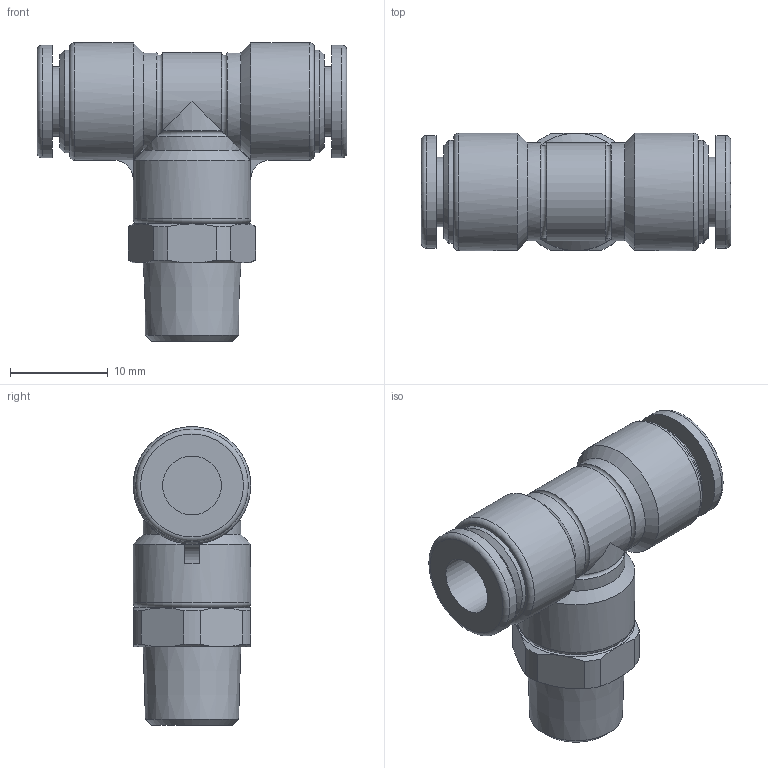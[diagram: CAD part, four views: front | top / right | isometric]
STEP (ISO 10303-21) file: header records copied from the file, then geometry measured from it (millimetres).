
FILE_DESCRIPTION(/* description */ (''),/* implementation_level */ '2;1');
FILE_NAME(/* name */ 'E:\2013年度版　3D-DATA\【02】 TOUCH CONNECTOR FIVE SUS\[03] MALE BRANCH TEE\[05] FS6-01MT FS6-01MTW.stp',/* time_stamp */ '2013-08-06T16:53:40+09:00',/* author */ ('takahashi-pc2'),/* organization */ (''),/* preprocessor_version */ 'ST-DEVELOPER v15.2',/* originating_system */ 'Autodesk Inventor 2014',/* authorisation */ '');
FILE_SCHEMA (('AUTOMOTIVE_DESIGN { 1 0 10303 214 3 1 1 }'));
Length unit declared in the file: millimetre
Products named in the file (1): [05] FS6-01MT FS6-01MTW
Bounding box: 31.6 x 12 x 30.5 mm (x, y, z)
Volume: 4232 mm3; surface area: 2816.8 mm2
Topology: 1 solids, 1 shells, 86 faces, 194 edges, 120 vertices
Faces by surface type: plane 31, cylinder 26, cone 20, torus 9
Full cylindrical faces by diameter (mm): 6 x2, 7.1 x2, 10.5 x2, 11.5 x2, 12 x3
Entity records: 2369 total; most frequent: CARTESIAN_POINT 545, DIRECTION 396, ORIENTED_EDGE 346, AXIS2_PLACEMENT_3D 176, EDGE_CURVE 173, VERTEX_POINT 119, EDGE_LOOP 116, ADVANCED_FACE 86
